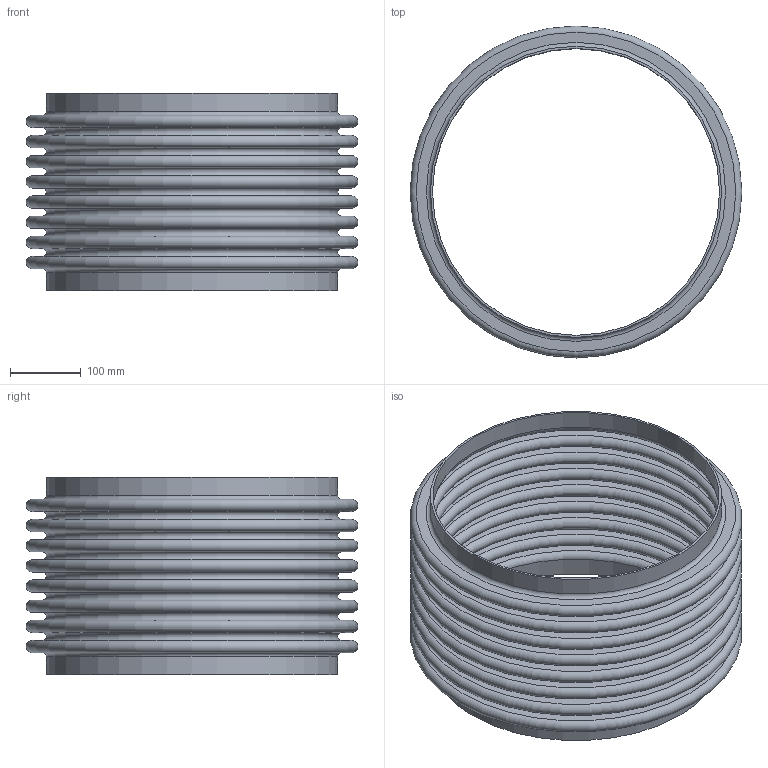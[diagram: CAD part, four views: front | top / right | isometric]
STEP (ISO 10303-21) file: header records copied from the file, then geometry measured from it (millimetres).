
FILE_DESCRIPTION(/* description */ ('STOCK BELLOWS: U.S-16-8-300S, 16.000 I.D., 18.500 O.D., 2 PLY, 16 GA (0.060 THICK), 8 CONS., 1.125 PITCH, 1.000 TANGENT. '),/* implementation_level */ '2;1');
FILE_NAME(/* name */ 'STOCK BELLOW - US-16-8-300S.stp',/* time_stamp */ '2026-07-21T13:30:23-05:00',/* author */ ('KennethB'),/* organization */ (''),/* preprocessor_version */ 'ST-DEVELOPER v20.1',/* originating_system */ 'Autodesk Inventor 2026',/* authorisation */ '');
FILE_SCHEMA (('AUTOMOTIVE_DESIGN { 1 0 10303 214 3 1 1 }'));
Length unit declared in the file: inch
Products named in the file (1): STOCK BELLOW - US-16-8-300S
Bounding box: 469.9 x 469.9 x 279.4 mm (x, y, z)
Volume: 2673347.6 mm3; surface area: 1777689.3 mm2
Topology: 3 solids, 3 shells, 76 faces, 114 edges, 77 vertices
Faces by surface type: plane 38, torus 34, cylinder 4
Full cylindrical faces by diameter (mm): 406.4 x2, 412.496 x2
Entity records: 1814 total; most frequent: DIRECTION 378, CARTESIAN_POINT 268, ORIENTED_EDGE 228, AXIS2_PLACEMENT_3D 187, EDGE_LOOP 114, EDGE_CURVE 114, CIRCLE 110, FACE_OUTER_BOUND 76
